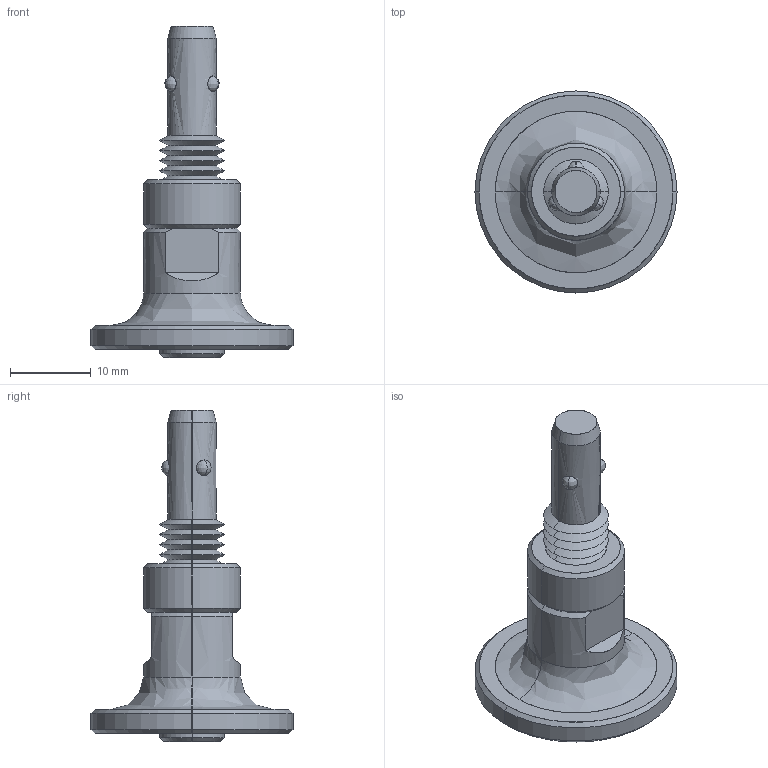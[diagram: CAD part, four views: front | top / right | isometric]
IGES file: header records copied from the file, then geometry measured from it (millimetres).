
Start section: SolidWorks IGES file using analytic representation for surfaces
Global section: file name: C:\Users\IanO\Documents\Temp File\GENERAL\33910_v2\33910_v2_20191021_IGES\33910.W1006.igs; native system: SolidWorks 2017; preprocessor: SolidWorks 2017; author: IanO; date: 191022.090416; units: millimetre
Bounding box: 25 x 25 x 41 mm (x, y, z)
Surface area: 2375.3 mm2 (no closed solid volume)
Topology: 0 solids, 0 shells, 68 faces, 720 edges, 720 vertices
Faces by surface type: revolution 53, bspline 15
